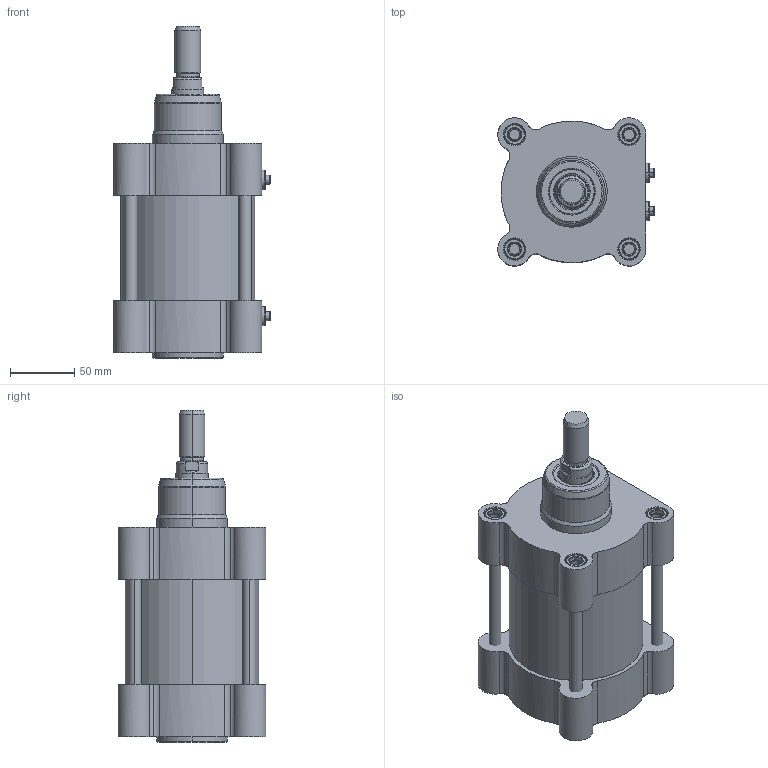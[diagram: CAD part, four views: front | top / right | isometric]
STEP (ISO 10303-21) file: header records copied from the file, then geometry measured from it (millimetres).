
FILE_DESCRIPTION (( 'STEP AP203' ), '1' );
FILE_NAME ('CTMI100-25.STEP', '2020-03-26T19:42:13', ( '' ), ( '' ), 'SwSTEP 2.0', 'SolidWorks 2019', '' );
FILE_SCHEMA (( 'CONFIG_CONTROL_DESIGN' ));
Length unit declared in the file: millimetre
Products named in the file (1): CTMI100-25
Bounding box: 121.5 x 115 x 258 mm (x, y, z)
Surface area: 221455.8 mm2 (no closed solid volume)
Topology: 0 solids, 20 shells, 706 faces, 1641 edges, 1016 vertices
Faces by surface type: cone 216, cylinder 201, plane 193, torus 80, bspline 16
Entity records: 32585 total; most frequent: CARTESIAN_POINT 18829, ORIENTED_EDGE 3244, DIRECTION 2039, EDGE_CURVE 1641, B_SPLINE_CURVE_WITH_KNOTS 1097, VERTEX_POINT 1016, AXIS2_PLACEMENT_3D 855, EDGE_LOOP 773
